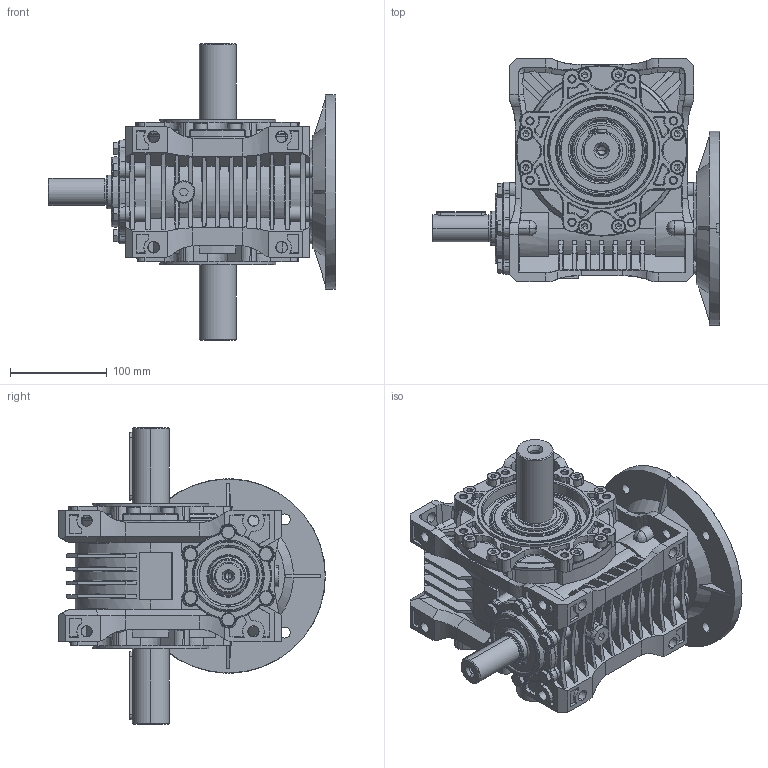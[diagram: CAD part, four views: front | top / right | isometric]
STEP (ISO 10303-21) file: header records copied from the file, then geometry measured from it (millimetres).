
FILE_DESCRIPTION (( 'STEP AP203' ), '1' );
FILE_NAME ('MR-80_200-24-WBS-WD-3D.STEP', '2024-05-07T09:15:52', ( '' ), ( '' ), 'SwSTEP 2.0', 'SolidWorks 2022', '' );
FILE_SCHEMA (( 'CONFIG_CONTROL_DESIGN' ));
Length unit declared in the file: millimetre
Products named in the file (1): MR-80_200-24-WBS-WD-3D
Bounding box: 297 x 275.23 x 306 mm (x, y, z)
Volume: 4635958.6 mm3; surface area: 521729.9 mm2
Topology: 1 solids, 41 shells, 3254 faces, 8484 edges, 5352 vertices
Faces by surface type: plane 1252, cone 965, cylinder 460, bspline 298, torus 279
Entity records: 113193 total; most frequent: CARTESIAN_POINT 36741, ORIENTED_EDGE 16718, DIRECTION 15237, EDGE_CURVE 8359, AXIS2_PLACEMENT_3D 5855, VERTEX_POINT 5352, LINE 3527, VECTOR 3527
